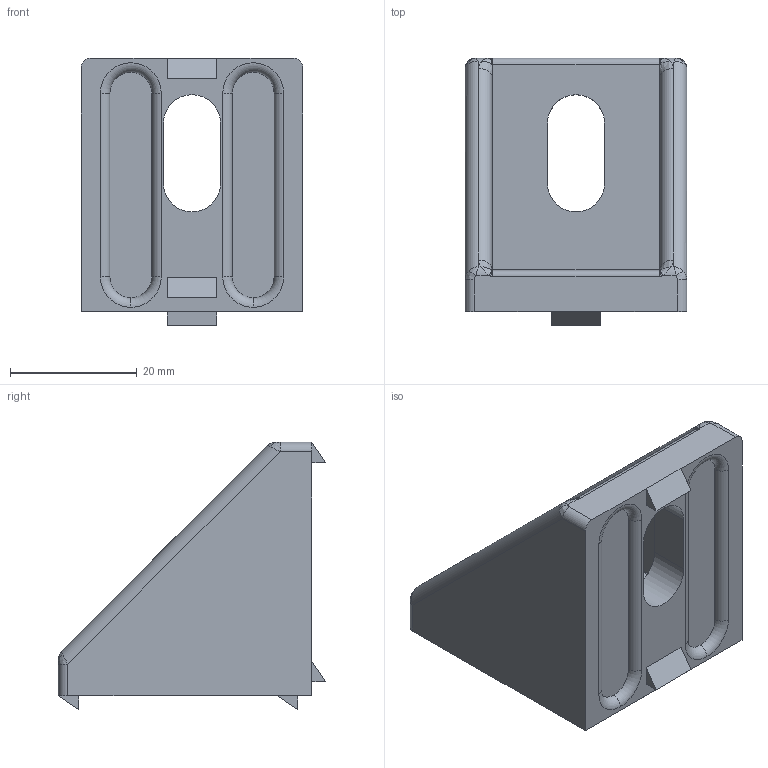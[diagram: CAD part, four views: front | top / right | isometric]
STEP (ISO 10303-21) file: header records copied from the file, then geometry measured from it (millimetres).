
FILE_DESCRIPTION (( 'STEP AP203' ), '1' );
FILE_NAME ('DCB4035-8.STEP', '2018-09-12T07:18:59', ( '' ), ( '' ), 'SwSTEP 2.0', 'SolidWorks 2012', '' );
FILE_SCHEMA (( 'CONFIG_CONTROL_DESIGN' ));
Length unit declared in the file: millimetre
Products named in the file (1): DCB4035-8
Bounding box: 35 x 42.2 x 42.2 mm (x, y, z)
Volume: 17947.5 mm3; surface area: 8822.1 mm2
Topology: 1 solids, 1 shells, 108 faces, 264 edges, 154 vertices
Faces by surface type: plane 38, cylinder 32, bspline 20, torus 16, sphere 2
Entity records: 3519 total; most frequent: CARTESIAN_POINT 1069, ORIENTED_EDGE 508, DIRECTION 488, EDGE_CURVE 254, AXIS2_PLACEMENT_3D 185, VERTEX_POINT 154, EDGE_LOOP 118, VECTOR 118
